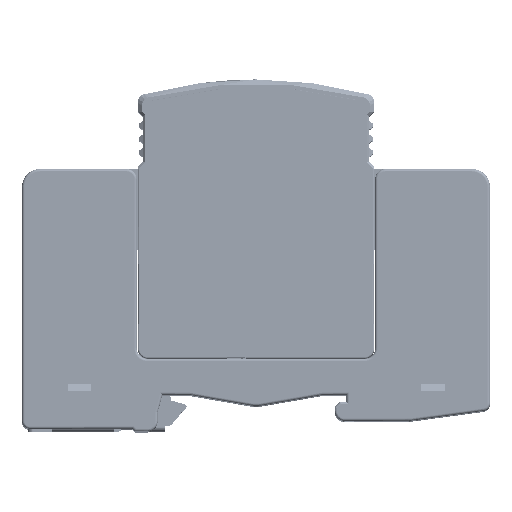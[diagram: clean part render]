
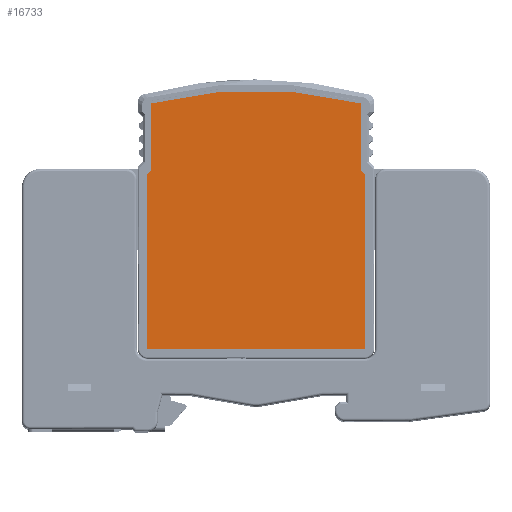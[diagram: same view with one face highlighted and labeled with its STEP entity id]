
A CAD part, top view. The second image highlights one B-rep face of the part: STEP entity #16733.
In plain terms, the highlighted planar face has unit normal (0, 0, 1).
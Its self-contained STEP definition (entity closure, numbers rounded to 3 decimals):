
#3453=PLANE('',#153924);
#8912=FACE_OUTER_BOUND('',#27997,.T.);
#16733=ADVANCED_FACE('',(#8912),#3453,.F.);
#27997=EDGE_LOOP('',(#82326,#82327,#82328,#82329,#82330,#82331,#82332,#82333,
#82334,#82335,#82336,#82337));
#35074=CIRCLE('',#153919,80.419);
#35075=CIRCLE('',#153920,1.05);
#35076=CIRCLE('',#153921,0.149);
#35077=CIRCLE('',#153922,0.149);
#35078=CIRCLE('',#153923,1.05);
#43634=LINE('',#223043,#58396);
#43635=LINE('',#223047,#58397);
#43636=LINE('',#223051,#58398);
#43637=LINE('',#223053,#58399);
#43638=LINE('',#223057,#58400);
#43639=LINE('',#223061,#58401);
#43640=LINE('',#223063,#58402);
#58396=VECTOR('',#176707,1.);
#58397=VECTOR('',#176712,1.);
#58398=VECTOR('',#176715,1.);
#58399=VECTOR('',#176716,1.);
#58400=VECTOR('',#176719,1.);
#58401=VECTOR('',#176722,1.);
#58402=VECTOR('',#176723,1.);
#82326=ORIENTED_EDGE('',*,*,#133380,.F.);
#82327=ORIENTED_EDGE('',*,*,#133381,.F.);
#82328=ORIENTED_EDGE('',*,*,#133382,.F.);
#82329=ORIENTED_EDGE('',*,*,#133383,.F.);
#82330=ORIENTED_EDGE('',*,*,#133384,.F.);
#82331=ORIENTED_EDGE('',*,*,#133385,.F.);
#82332=ORIENTED_EDGE('',*,*,#133386,.F.);
#82333=ORIENTED_EDGE('',*,*,#133387,.F.);
#82334=ORIENTED_EDGE('',*,*,#133388,.F.);
#82335=ORIENTED_EDGE('',*,*,#133389,.F.);
#82336=ORIENTED_EDGE('',*,*,#133390,.F.);
#82337=ORIENTED_EDGE('',*,*,#133379,.F.);
#116688=VERTEX_POINT('',#223040);
#116689=VERTEX_POINT('',#223042);
#116690=VERTEX_POINT('',#223046);
#116691=VERTEX_POINT('',#223048);
#116692=VERTEX_POINT('',#223050);
#116693=VERTEX_POINT('',#223052);
#116694=VERTEX_POINT('',#223054);
#116695=VERTEX_POINT('',#223056);
#116696=VERTEX_POINT('',#223058);
#116697=VERTEX_POINT('',#223060);
#116698=VERTEX_POINT('',#223062);
#116699=VERTEX_POINT('',#223064);
#133379=EDGE_CURVE('',#116689,#116688,#43634,.T.);
#133380=EDGE_CURVE('',#116690,#116689,#35074,.T.);
#133381=EDGE_CURVE('',#116691,#116690,#43635,.T.);
#133382=EDGE_CURVE('',#116692,#116691,#35075,.T.);
#133383=EDGE_CURVE('',#116693,#116692,#43636,.T.);
#133384=EDGE_CURVE('',#116694,#116693,#43637,.T.);
#133385=EDGE_CURVE('',#116695,#116694,#35076,.T.);
#133386=EDGE_CURVE('',#116696,#116695,#43638,.T.);
#133387=EDGE_CURVE('',#116697,#116696,#35077,.T.);
#133388=EDGE_CURVE('',#116698,#116697,#43639,.T.);
#133389=EDGE_CURVE('',#116699,#116698,#43640,.T.);
#133390=EDGE_CURVE('',#116688,#116699,#35078,.T.);
#153919=AXIS2_PLACEMENT_3D('',#223045,#176710,#176711);
#153920=AXIS2_PLACEMENT_3D('',#223049,#176713,#176714);
#153921=AXIS2_PLACEMENT_3D('',#223055,#176717,#176718);
#153922=AXIS2_PLACEMENT_3D('',#223059,#176720,#176721);
#153923=AXIS2_PLACEMENT_3D('',#223065,#176724,#176725);
#153924=AXIS2_PLACEMENT_3D('',#223066,#176726,#176727);
#176707=DIRECTION('',(0.,-1.,0.));
#176710=DIRECTION('',(0.,0.,-1.));
#176711=DIRECTION('',(-0.25,0.968,0.));
#176712=DIRECTION('',(0.,1.,0.));
#176713=DIRECTION('',(0.,0.,1.));
#176714=DIRECTION('',(0.707,-0.707,0.));
#176715=DIRECTION('',(0.707,0.707,0.));
#176716=DIRECTION('',(0.,1.,0.));
#176717=DIRECTION('',(0.,0.,-1.));
#176718=DIRECTION('',(0.,-1.,0.));
#176719=DIRECTION('',(-1.,0.,0.));
#176720=DIRECTION('',(0.,0.,-1.));
#176721=DIRECTION('',(1.,0.,0.));
#176722=DIRECTION('',(0.,-1.,0.));
#176723=DIRECTION('',(0.707,-0.707,0.));
#176724=DIRECTION('',(0.,0.,1.));
#176725=DIRECTION('',(-1.,0.,0.));
#176726=DIRECTION('',(0.,0.,-1.));
#176727=DIRECTION('',(1.,0.,0.));
#223040=CARTESIAN_POINT('',(260.1,39.809,320.625));
#223042=CARTESIAN_POINT('',(260.1,52.202,320.625));
#223043=CARTESIAN_POINT('',(260.1,52.202,320.625));
#223045=CARTESIAN_POINT('',(240.,-25.665,320.625));
#223046=CARTESIAN_POINT('',(219.9,52.202,320.625));
#223047=CARTESIAN_POINT('',(219.9,39.809,320.625));
#223048=CARTESIAN_POINT('',(219.9,39.809,320.625));
#223049=CARTESIAN_POINT('',(218.85,39.809,320.625));
#223050=CARTESIAN_POINT('',(219.592,39.066,320.625));
#223051=CARTESIAN_POINT('',(219.101,38.574,320.625));
#223052=CARTESIAN_POINT('',(219.101,38.574,320.625));
#223053=CARTESIAN_POINT('',(219.101,5.104,320.625));
#223054=CARTESIAN_POINT('',(219.101,5.104,320.625));
#223055=CARTESIAN_POINT('',(219.25,5.104,320.625));
#223056=CARTESIAN_POINT('',(219.25,4.955,320.625));
#223057=CARTESIAN_POINT('',(260.75,4.955,320.625));
#223058=CARTESIAN_POINT('',(260.75,4.955,320.625));
#223059=CARTESIAN_POINT('',(260.75,5.104,320.625));
#223060=CARTESIAN_POINT('',(260.899,5.104,320.625));
#223061=CARTESIAN_POINT('',(260.899,38.574,320.625));
#223062=CARTESIAN_POINT('',(260.899,38.574,320.625));
#223063=CARTESIAN_POINT('',(260.408,39.066,320.625));
#223064=CARTESIAN_POINT('',(260.408,39.066,320.625));
#223065=CARTESIAN_POINT('',(261.15,39.809,320.625));
#223066=CARTESIAN_POINT('',(260.75,5.104,320.625));
